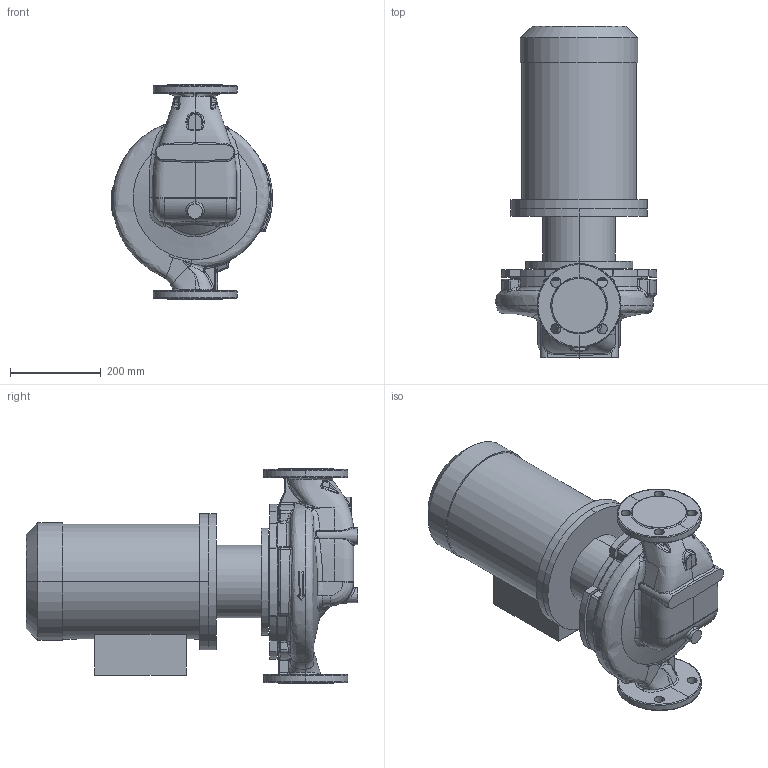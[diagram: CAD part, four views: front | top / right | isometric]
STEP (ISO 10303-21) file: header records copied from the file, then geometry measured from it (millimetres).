
FILE_DESCRIPTION (( 'STEP AP214' ), '1' );
FILE_NAME ('KRL 65-250-4-5,5.STEP', '2026-03-23T09:42:04', ( '' ), ( '' ), 'SwSTEP 2.0', 'SolidWorks 2016', '' );
FILE_SCHEMA (( 'AUTOMOTIVE_DESIGN' ));
Length unit declared in the file: millimetre
Products named in the file (1): KRL 65-250-4-5,5
Bounding box: 355.42 x 731.3 x 475 mm (x, y, z)
Volume: 40812976.1 mm3; surface area: 1486563.2 mm2
Topology: 4 solids, 4 shells, 621 faces, 1547 edges, 931 vertices
Faces by surface type: bspline 283, cylinder 133, plane 103, cone 43, torus 31, sphere 28
Entity records: 64465 total; most frequent: CARTESIAN_POINT 45456, ORIENTED_EDGE 3058, DIRECTION 1859, EDGE_CURVE 1529, VERTEX_POINT 931, AXIS2_PLACEMENT_3D 797, EDGE_LOOP 652, B_SPLINE_CURVE_WITH_KNOTS 650
